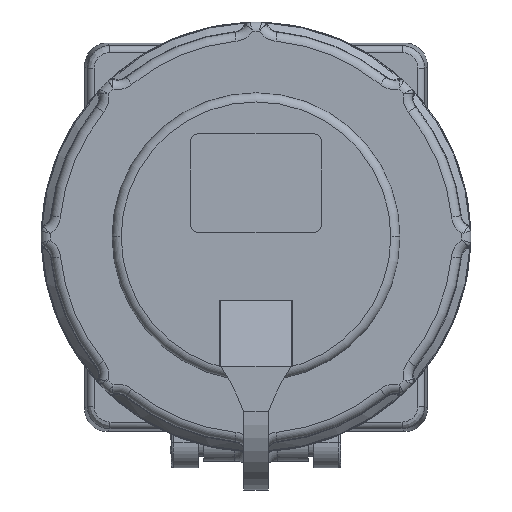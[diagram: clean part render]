
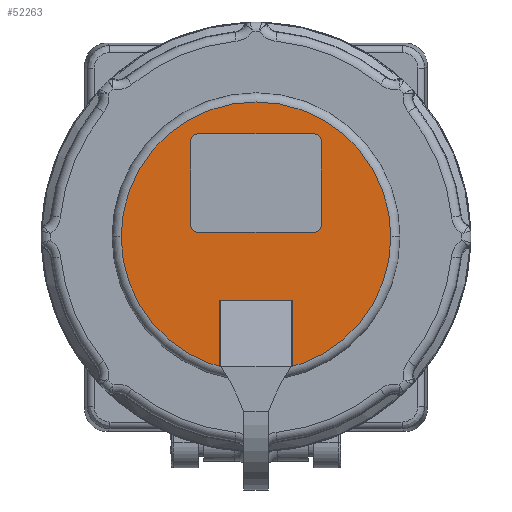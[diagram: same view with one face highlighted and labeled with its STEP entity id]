
A CAD part, top view. The second image highlights one B-rep face of the part: STEP entity #52263.
In plain terms, the highlighted planar face has unit normal (0, 0, 1).
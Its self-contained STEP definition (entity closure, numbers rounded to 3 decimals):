
#4829=CARTESIAN_POINT('',(0.,0.,62.2));
#4830=DIRECTION('',(0.,0.,-1.));
#4831=DIRECTION('',(1.,0.,0.));
#4832=AXIS2_PLACEMENT_3D('',#4829,#4830,#4831);
#4837=CARTESIAN_POINT('',(0.,0.,62.2));
#4838=DIRECTION('',(0.,0.,1.));
#4839=DIRECTION('',(1.,0.,0.));
#4840=AXIS2_PLACEMENT_3D('',#4837,#4838,#4839);
#4845=DIRECTION('',(0.,1.,0.));
#4846=VECTOR('',#4845,14.098);
#4847=CARTESIAN_POINT('',(-8.,-28.098,62.2));
#4848=LINE('4630',#4847,#4846);
#4852=DIRECTION('',(-1.,0.,0.));
#4853=VECTOR('',#4852,16.);
#4854=CARTESIAN_POINT('',(8.,-28.098,62.2));
#4855=LINE('4632',#4854,#4853);
#4859=DIRECTION('',(0.,1.,0.));
#4860=VECTOR('',#4859,14.098);
#4861=CARTESIAN_POINT('',(8.,-28.098,62.2));
#4862=LINE('4631',#4861,#4860);
#4866=DIRECTION('',(-1.,0.,0.));
#4867=VECTOR('',#4866,16.);
#4868=CARTESIAN_POINT('',(8.,-14.,62.2));
#4869=LINE('4633',#4868,#4867);
#4873=CARTESIAN_POINT('',(-12.75,21.,62.2));
#4874=DIRECTION('',(0.,0.,1.));
#4875=DIRECTION('',(0.,1.,0.));
#4876=AXIS2_PLACEMENT_3D('',#4873,#4874,#4875);
#4881=DIRECTION('',(0.,-1.,0.));
#4882=VECTOR('',#4881,18.5);
#4883=CARTESIAN_POINT('',(-14.25,21.,62.2));
#4884=LINE('4647',#4883,#4882);
#4888=CARTESIAN_POINT('',(-12.75,2.5,62.2));
#4889=DIRECTION('',(0.,0.,1.));
#4890=DIRECTION('',(-1.,0.,0.));
#4891=AXIS2_PLACEMENT_3D('',#4888,#4889,#4890);
#4896=DIRECTION('',(1.,0.,0.));
#4897=VECTOR('',#4896,25.5);
#4898=CARTESIAN_POINT('',(-12.75,1.,62.2));
#4899=LINE('4649',#4898,#4897);
#4903=CARTESIAN_POINT('',(12.75,2.5,62.2));
#4904=DIRECTION('',(0.,0.,1.));
#4905=DIRECTION('',(0.,-1.,0.));
#4906=AXIS2_PLACEMENT_3D('',#4903,#4904,#4905);
#4911=DIRECTION('',(0.,1.,0.));
#4912=VECTOR('',#4911,18.5);
#4913=CARTESIAN_POINT('',(14.25,2.5,62.2));
#4914=LINE('4651',#4913,#4912);
#4918=CARTESIAN_POINT('',(12.75,21.,62.2));
#4919=DIRECTION('',(0.,0.,1.));
#4920=DIRECTION('',(1.,0.,0.));
#4921=AXIS2_PLACEMENT_3D('',#4918,#4919,#4920);
#4926=DIRECTION('',(-1.,0.,0.));
#4927=VECTOR('',#4926,25.5);
#4928=CARTESIAN_POINT('',(12.75,22.5,62.2));
#4929=LINE('4653',#4928,#4927);
#41498=CARTESIAN_POINT('',(29.5,0.,62.2));
#41500=VERTEX_POINT('',#41498);
#41502=CARTESIAN_POINT('',(-29.5,0.,62.2));
#41504=VERTEX_POINT('',#41502);
#41510=CARTESIAN_POINT('',(-8.,-28.098,62.2));
#41511=CARTESIAN_POINT('',(-8.,-14.,62.2));
#41512=VERTEX_POINT('',#41510);
#41513=VERTEX_POINT('',#41511);
#41514=CARTESIAN_POINT('',(8.,-28.098,62.2));
#41515=CARTESIAN_POINT('',(8.,-14.,62.2));
#41516=VERTEX_POINT('',#41514);
#41517=VERTEX_POINT('',#41515);
#41538=CARTESIAN_POINT('',(-12.75,22.5,62.2));
#41539=CARTESIAN_POINT('',(-14.25,21.,62.2));
#41540=VERTEX_POINT('',#41538);
#41541=VERTEX_POINT('',#41539);
#41542=CARTESIAN_POINT('',(-14.25,2.5,62.2));
#41543=VERTEX_POINT('',#41542);
#41544=CARTESIAN_POINT('',(-12.75,1.,62.2));
#41545=VERTEX_POINT('',#41544);
#41546=CARTESIAN_POINT('',(12.75,1.,62.2));
#41547=VERTEX_POINT('',#41546);
#41548=CARTESIAN_POINT('',(14.25,2.5,62.2));
#41549=VERTEX_POINT('',#41548);
#41550=CARTESIAN_POINT('',(14.25,21.,62.2));
#41551=VERTEX_POINT('',#41550);
#41552=CARTESIAN_POINT('',(12.75,22.5,62.2));
#41553=VERTEX_POINT('',#41552);
#52226=CARTESIAN_POINT('',(0.,0.,62.2));
#52227=DIRECTION('',(0.,0.,1.));
#52228=DIRECTION('',(-1.,0.,0.));
#52229=AXIS2_PLACEMENT_3D('',#52226,#52227,#52228);
#52230=PLANE('1265',#52229);
#52231=ORIENTED_EDGE('4625',*,*,#52212,.F.);
#52232=ORIENTED_EDGE('4627',*,*,#52194,.T.);
#52233=EDGE_LOOP('1265',(#52231,#52232));
#52234=FACE_OUTER_BOUND('1265',#52233,.F.);
#52236=ORIENTED_EDGE('4630',*,*,#52235,.F.);
#52238=ORIENTED_EDGE('4632',*,*,#52237,.F.);
#52240=ORIENTED_EDGE('4631',*,*,#52239,.T.);
#52242=ORIENTED_EDGE('4633',*,*,#52241,.T.);
#52243=EDGE_LOOP('1265',(#52236,#52238,#52240,#52242));
#52244=FACE_BOUND('1265',#52243,.F.);
#52246=ORIENTED_EDGE('4646',*,*,#52245,.T.);
#52248=ORIENTED_EDGE('4647',*,*,#52247,.T.);
#52250=ORIENTED_EDGE('4648',*,*,#52249,.T.);
#52252=ORIENTED_EDGE('4649',*,*,#52251,.T.);
#52254=ORIENTED_EDGE('4650',*,*,#52253,.T.);
#52256=ORIENTED_EDGE('4651',*,*,#52255,.T.);
#52258=ORIENTED_EDGE('4652',*,*,#52257,.T.);
#52260=ORIENTED_EDGE('4653',*,*,#52259,.T.);
#52261=EDGE_LOOP('1265',(#52246,#52248,#52250,#52252,#52254,#52256,#52258,
#52260));
#52262=FACE_BOUND('1265',#52261,.F.);
#4833=CIRCLE('4627',#4832,29.5);
#4841=CIRCLE('4625',#4840,29.5);
#4877=CIRCLE('4646',#4876,1.5);
#4892=CIRCLE('4648',#4891,1.5);
#4907=CIRCLE('4650',#4906,1.5);
#4922=CIRCLE('4652',#4921,1.5);
#52194=EDGE_CURVE('4627',#41500,#41504,#4833,.T.);
#52212=EDGE_CURVE('4625',#41500,#41504,#4841,.T.);
#52235=EDGE_CURVE('4630',#41512,#41513,#4848,.T.);
#52237=EDGE_CURVE('4632',#41516,#41512,#4855,.T.);
#52239=EDGE_CURVE('4631',#41516,#41517,#4862,.T.);
#52241=EDGE_CURVE('4633',#41517,#41513,#4869,.T.);
#52245=EDGE_CURVE('4646',#41540,#41541,#4877,.T.);
#52247=EDGE_CURVE('4647',#41541,#41543,#4884,.T.);
#52249=EDGE_CURVE('4648',#41543,#41545,#4892,.T.);
#52251=EDGE_CURVE('4649',#41545,#41547,#4899,.T.);
#52253=EDGE_CURVE('4650',#41547,#41549,#4907,.T.);
#52255=EDGE_CURVE('4651',#41549,#41551,#4914,.T.);
#52257=EDGE_CURVE('4652',#41551,#41553,#4922,.T.);
#52259=EDGE_CURVE('4653',#41553,#41540,#4929,.T.);
#52263=ADVANCED_FACE('1265',(#52234,#52244,#52262),#52230,.T.);
